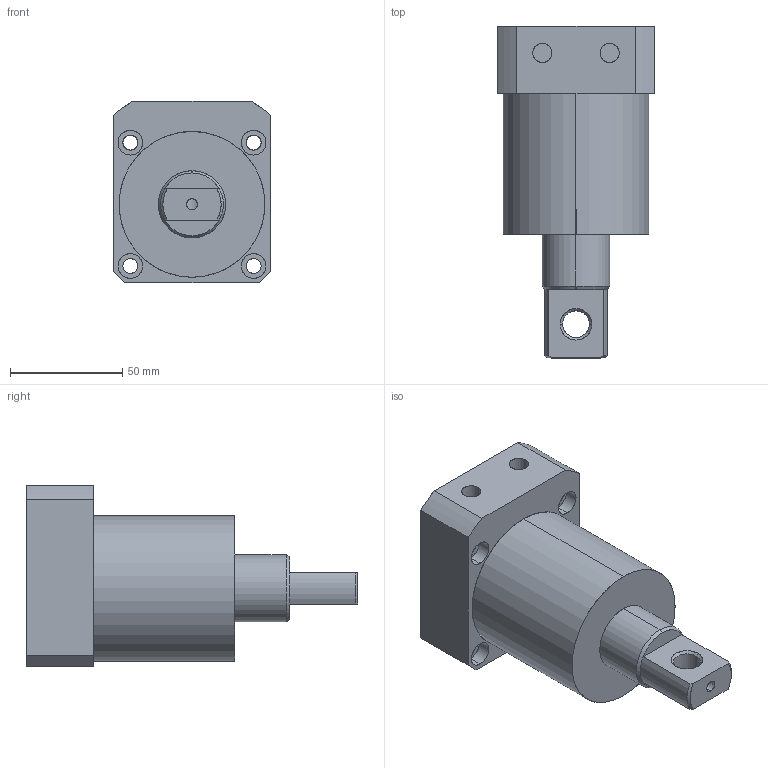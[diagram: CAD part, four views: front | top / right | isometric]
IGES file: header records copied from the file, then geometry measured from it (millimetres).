
Start section: SolidWorks IGES file using analytic representation for surfaces
Global section: file name: E:\karthik\CLASYS\Pneumatic Swing cylinders\Bottom cyl 0312-P\0312-0651\65.IGS; native system: SolidWorks 2010; preprocessor: SolidWorks 2010; author: karthik; date: 130914.165247; units: millimetre
Bounding box: 70 x 148 x 81 mm (x, y, z)
Surface area: 42876.1 mm2 (no closed solid volume)
Topology: 0 solids, 0 shells, 75 faces, 1442 edges, 1442 vertices
Faces by surface type: revolution 52, bspline 23
